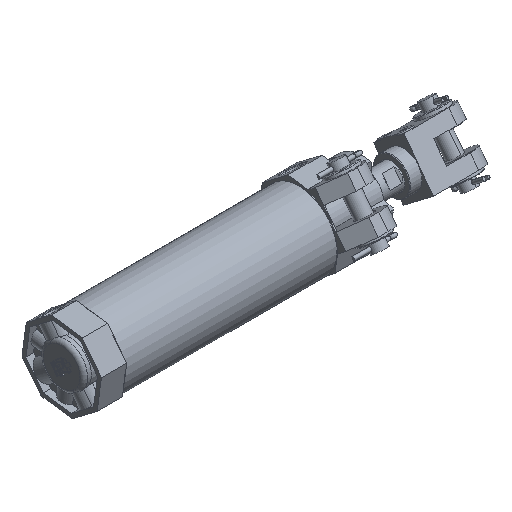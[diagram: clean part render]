
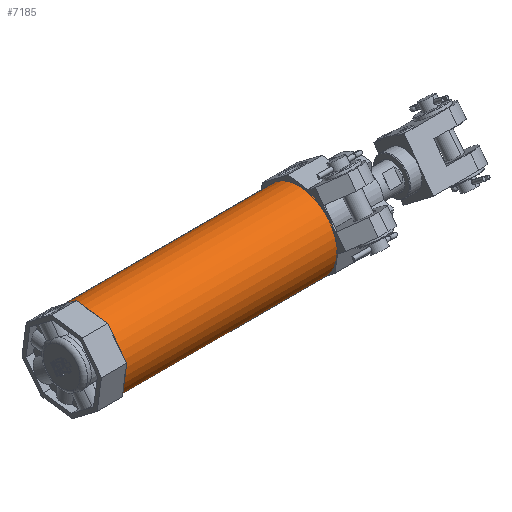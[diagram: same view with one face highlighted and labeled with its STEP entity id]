
A CAD part, isometric view. The second image highlights one B-rep face of the part: STEP entity #7185.
In plain terms, the highlighted cylindrical face has radius 30 mm (diameter 60 mm), a partial arc.
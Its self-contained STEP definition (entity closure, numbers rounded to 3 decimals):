
#7129=CARTESIAN_POINT('Axis2P3D Location',(84.,0.,0.)) ;
#7134=CARTESIAN_POINT('Line Origine',(84.,30.,0.)) ;
#7138=CARTESIAN_POINT('Vertex',(0.,30.,0.)) ;
#7140=CARTESIAN_POINT('Vertex',(168.,30.,0.)) ;
#7147=CARTESIAN_POINT('Vertex',(0.,-30.,0.)) ;
#7150=CARTESIAN_POINT('Line Origine',(84.,-30.,0.)) ;
#7154=CARTESIAN_POINT('Vertex',(168.,-30.,0.)) ;
#7169=CARTESIAN_POINT('Axis2P3D Location',(0.,0.,0.)) ;
#7174=CARTESIAN_POINT('Axis2P3D Location',(168.,0.,0.)) ;
#7130=DIRECTION('Axis2P3D Direction',(1.,0.,0.)) ;
#7131=DIRECTION('Axis2P3D XDirection',(0.,1.,0.)) ;
#7135=DIRECTION('Vector Direction',(1.,0.,0.)) ;
#7151=DIRECTION('Vector Direction',(1.,0.,0.)) ;
#7170=DIRECTION('Axis2P3D Direction',(1.,0.,0.)) ;
#7175=DIRECTION('Axis2P3D Direction',(1.,0.,0.)) ;
#7132=AXIS2_PLACEMENT_3D('Cylinder Axis2P3D',#7129,#7130,#7131) ;
#7171=AXIS2_PLACEMENT_3D('Circle Axis2P3D',#7169,#7170,$) ;
#7176=AXIS2_PLACEMENT_3D('Circle Axis2P3D',#7174,#7175,$) ;
#7180=ORIENTED_EDGE('',*,*,#7156,.F.) ;
#7181=ORIENTED_EDGE('',*,*,#7173,.T.) ;
#7182=ORIENTED_EDGE('',*,*,#7142,.T.) ;
#7183=ORIENTED_EDGE('',*,*,#7178,.F.) ;
#7136=VECTOR('Line Direction',#7135,1.) ;
#7152=VECTOR('Line Direction',#7151,1.) ;
#7185=ADVANCED_FACE('PartBody',(#7184),#7133,.T.) ;
#7172=CIRCLE('generated circle',#7171,30.) ;
#7177=CIRCLE('generated circle',#7176,30.) ;
#7133=CYLINDRICAL_SURFACE('generated cylinder',#7132,30.) ;
#7142=EDGE_CURVE('',#7139,#7141,#7137,.T.) ;
#7156=EDGE_CURVE('',#7148,#7155,#7153,.T.) ;
#7173=EDGE_CURVE('',#7148,#7139,#7172,.T.) ;
#7178=EDGE_CURVE('',#7155,#7141,#7177,.T.) ;
#7179=EDGE_LOOP('',(#7180,#7181,#7182,#7183)) ;
#7184=FACE_OUTER_BOUND('',#7179,.T.) ;
#7137=LINE('Line',#7134,#7136) ;
#7153=LINE('Line',#7150,#7152) ;
#7139=VERTEX_POINT('',#7138) ;
#7141=VERTEX_POINT('',#7140) ;
#7148=VERTEX_POINT('',#7147) ;
#7155=VERTEX_POINT('',#7154) ;
